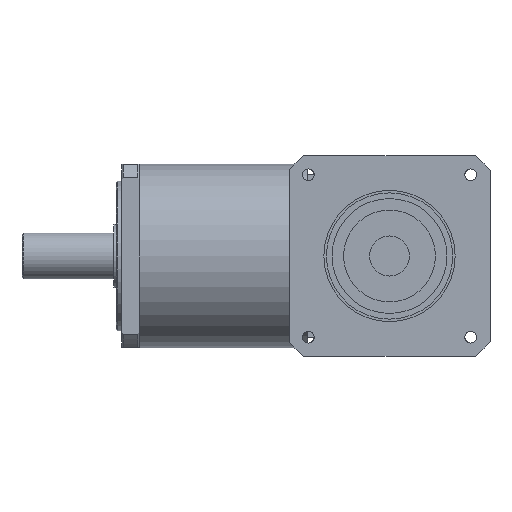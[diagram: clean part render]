
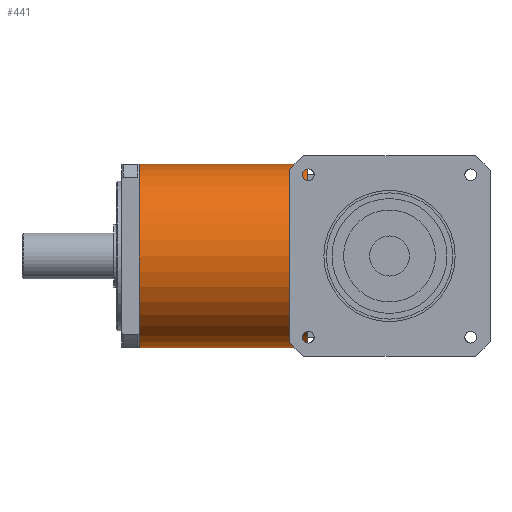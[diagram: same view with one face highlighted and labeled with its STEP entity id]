
A CAD part, left-side view. The second image highlights one B-rep face of the part: STEP entity #441.
In plain terms, the highlighted cylindrical face has radius 80 mm (diameter 160 mm), a partial arc.
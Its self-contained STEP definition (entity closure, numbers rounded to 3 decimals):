
#33 = DIRECTION ( 'NONE',  ( 0., 0., 1. ) ) ;
#40 = DIRECTION ( 'NONE',  ( 0., -1., 0. ) ) ;
#44 = CARTESIAN_POINT ( 'NONE',  ( 0., -102., 0. ) ) ;
#87 = VECTOR ( 'NONE', #842, 1000. ) ;
#94 = LINE ( 'NONE', #874, #87 ) ;
#441 = ADVANCED_FACE ( 'NONE', ( #1949 ), #1915, .T. ) ;
#565 = ORIENTED_EDGE ( 'NONE', *, *, #4125, .T. ) ;
#612 = CIRCLE ( 'NONE', #1470, 80. ) ;
#669 = EDGE_CURVE ( 'NONE', #4454, #2119, #1674, .T. ) ;
#765 = DIRECTION ( 'NONE',  ( 0., 1., 0. ) ) ;
#820 = CARTESIAN_POINT ( 'NONE',  ( 0., 0., 80. ) ) ;
#842 = DIRECTION ( 'NONE',  ( 0., 1., 0. ) ) ;
#874 = CARTESIAN_POINT ( 'NONE',  ( 0., 0., -80. ) ) ;
#1009 = EDGE_CURVE ( 'NONE', #2119, #2733, #1216, .T. ) ;
#1216 = CIRCLE ( 'NONE', #3710, 80. ) ;
#1470 = AXIS2_PLACEMENT_3D ( 'NONE', #3087, #3082, #3080 ) ;
#1472 = DIRECTION ( 'NONE',  ( 0., 1., 0. ) ) ;
#1473 = CARTESIAN_POINT ( 'NONE',  ( 0., 0., 0. ) ) ;
#1481 = DIRECTION ( 'NONE',  ( 0., 0., 1. ) ) ;
#1527 = CARTESIAN_POINT ( 'NONE',  ( 0., -102., -80. ) ) ;
#1666 = VECTOR ( 'NONE', #765, 1000. ) ;
#1674 = LINE ( 'NONE', #820, #1666 ) ;
#1750 = VERTEX_POINT ( 'NONE', #3415 ) ;
#1915 = CYLINDRICAL_SURFACE ( 'NONE', #4353, 80. ) ;
#1916 = ORIENTED_EDGE ( 'NONE', *, *, #669, .T. ) ;
#1949 = FACE_OUTER_BOUND ( 'NONE', #3886, .T. ) ;
#1973 = AXIS2_PLACEMENT_3D ( 'NONE', #4256, #4252, #4251 ) ;
#2085 = EDGE_CURVE ( 'NONE', #4454, #1750, #612, .T. ) ;
#2119 = VERTEX_POINT ( 'NONE', #3076 ) ;
#2383 = CARTESIAN_POINT ( 'NONE',  ( -80., -102., 0. ) ) ;
#2733 = VERTEX_POINT ( 'NONE', #2383 ) ;
#2979 = ORIENTED_EDGE ( 'NONE', *, *, #1009, .T. ) ;
#2984 = ORIENTED_EDGE ( 'NONE', *, *, #3239, .F. ) ;
#3024 = CIRCLE ( 'NONE', #1973, 80. ) ;
#3043 = VERTEX_POINT ( 'NONE', #1527 ) ;
#3076 = CARTESIAN_POINT ( 'NONE',  ( 0., -102., 80. ) ) ;
#3080 = DIRECTION ( 'NONE',  ( 0., 0., -1. ) ) ;
#3082 = DIRECTION ( 'NONE',  ( 0., -1., 0. ) ) ;
#3087 = CARTESIAN_POINT ( 'NONE',  ( 0., -249., 0. ) ) ;
#3239 = EDGE_CURVE ( 'NONE', #1750, #3043, #94, .T. ) ;
#3415 = CARTESIAN_POINT ( 'NONE',  ( 0., -249., -80. ) ) ;
#3710 = AXIS2_PLACEMENT_3D ( 'NONE', #44, #40, #33 ) ;
#3886 = EDGE_LOOP ( 'NONE', ( #2984, #4243, #1916, #2979, #565 ) ) ;
#4017 = CARTESIAN_POINT ( 'NONE',  ( 0., -249., 80. ) ) ;
#4125 = EDGE_CURVE ( 'NONE', #2733, #3043, #3024, .T. ) ;
#4243 = ORIENTED_EDGE ( 'NONE', *, *, #2085, .F. ) ;
#4251 = DIRECTION ( 'NONE',  ( 0., 0., 1. ) ) ;
#4252 = DIRECTION ( 'NONE',  ( 0., -1., 0. ) ) ;
#4256 = CARTESIAN_POINT ( 'NONE',  ( 0., -102., 0. ) ) ;
#4353 = AXIS2_PLACEMENT_3D ( 'NONE', #1473, #1472, #1481 ) ;
#4454 = VERTEX_POINT ( 'NONE', #4017 ) ;
